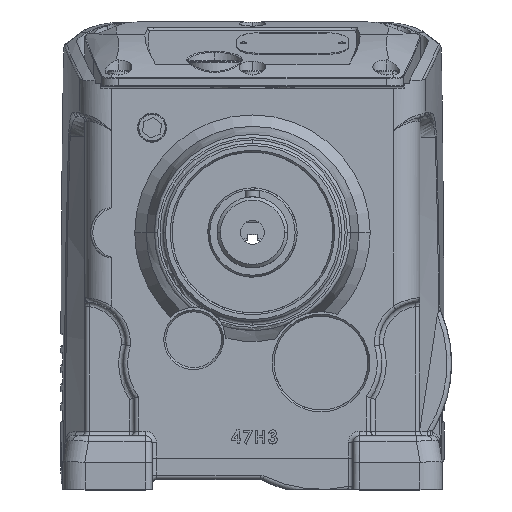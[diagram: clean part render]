
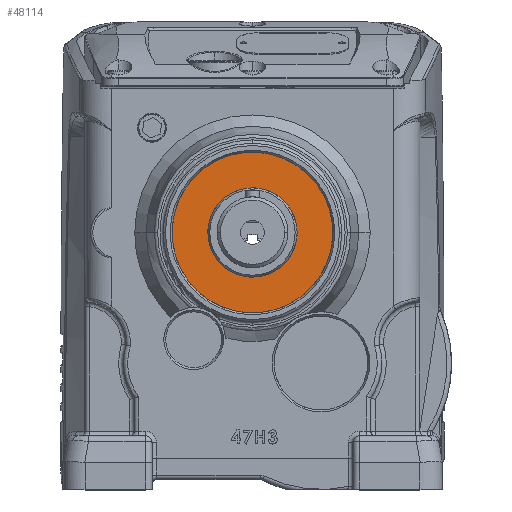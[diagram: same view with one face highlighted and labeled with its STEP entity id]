
A CAD part, top view. The second image highlights one B-rep face of the part: STEP entity #48114.
In plain terms, the highlighted planar face has unit normal (0, 0, 1).
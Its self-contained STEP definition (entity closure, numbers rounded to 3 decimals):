
#207 = AXIS2_PLACEMENT_3D ( 'NONE', #45281, #45282, #45283 ) ;
#355 = CIRCLE ( 'NONE', #358, 20. ) ;
#356 = CIRCLE ( 'NONE', #361, 36. ) ;
#358 = AXIS2_PLACEMENT_3D ( 'NONE', #7016, #7018, #7019 ) ;
#359 = CIRCLE ( 'NONE', #360, 20. ) ;
#360 = AXIS2_PLACEMENT_3D ( 'NONE', #7021, #7023, #7024 ) ;
#361 = AXIS2_PLACEMENT_3D ( 'NONE', #7026, #7028, #7030 ) ;
#364 = CIRCLE ( 'NONE', #367, 36. ) ;
#367 = AXIS2_PLACEMENT_3D ( 'NONE', #7040, #7042, #7044 ) ;
#2690 = CARTESIAN_POINT ( 'NONE',  ( 14.446, 143.475, 31. ) ) ;
#2691 = CARTESIAN_POINT ( 'NONE',  ( -14.446, 77.525, 31. ) ) ;
#2692 = CARTESIAN_POINT ( 'NONE',  ( -8.025, 92.181, 31. ) ) ;
#2693 = CARTESIAN_POINT ( 'NONE',  ( 8.025, 128.819, 31. ) ) ;
#7016 = CARTESIAN_POINT ( 'NONE',  ( 0., 110.5, 31. ) ) ;
#7018 = DIRECTION ( 'NONE',  ( 0., 0., 1. ) ) ;
#7019 = DIRECTION ( 'NONE',  ( -0.401, -0.916, 0. ) ) ;
#7021 = CARTESIAN_POINT ( 'NONE',  ( 0., 110.5, 31. ) ) ;
#7023 = DIRECTION ( 'NONE',  ( 0., 0., 1. ) ) ;
#7024 = DIRECTION ( 'NONE',  ( -0.401, -0.916, 0. ) ) ;
#7026 = CARTESIAN_POINT ( 'NONE',  ( 0., 110.5, 31. ) ) ;
#7028 = DIRECTION ( 'NONE',  ( 0., 0., 1. ) ) ;
#7030 = DIRECTION ( 'NONE',  ( -0.401, -0.916, 0. ) ) ;
#7040 = CARTESIAN_POINT ( 'NONE',  ( 0., 110.5, 31. ) ) ;
#7042 = DIRECTION ( 'NONE',  ( 0., 0., 1. ) ) ;
#7044 = DIRECTION ( 'NONE',  ( -0.401, -0.916, 0. ) ) ;
#40205 = EDGE_LOOP ( 'NONE', ( #50153, #50152 ) ) ;
#40207 = EDGE_LOOP ( 'NONE', ( #50150, #50151 ) ) ;
#42131 = FACE_BOUND ( 'NONE', #40205, .T. ) ;
#42132 = FACE_OUTER_BOUND ( 'NONE', #40207, .T. ) ;
#45280 = PLANE ( 'NONE',  #207 ) ;
#45281 = CARTESIAN_POINT ( 'NONE',  ( 32.975, 96.054, 31. ) ) ;
#45282 = DIRECTION ( 'NONE',  ( 0., 0., -1. ) ) ;
#45283 = DIRECTION ( 'NONE',  ( 0.401, 0.916, 0. ) ) ;
#48114 = ADVANCED_FACE ( 'NONE', ( #42131, #42132 ), #45280, .F. ) ;
#48303 = EDGE_CURVE ( 'NONE', #55873, #55874, #355, .T. ) ;
#48304 = EDGE_CURVE ( 'NONE', #55874, #55873, #359, .T. ) ;
#48305 = EDGE_CURVE ( 'NONE', #55871, #55872, #356, .T. ) ;
#48308 = EDGE_CURVE ( 'NONE', #55872, #55871, #364, .T. ) ;
#50150 = ORIENTED_EDGE ( 'NONE', *, *, #48308, .T. ) ;
#50151 = ORIENTED_EDGE ( 'NONE', *, *, #48305, .T. ) ;
#50152 = ORIENTED_EDGE ( 'NONE', *, *, #48304, .F. ) ;
#50153 = ORIENTED_EDGE ( 'NONE', *, *, #48303, .F. ) ;
#55871 = VERTEX_POINT ( 'NONE', #2690 ) ;
#55872 = VERTEX_POINT ( 'NONE', #2691 ) ;
#55873 = VERTEX_POINT ( 'NONE', #2692 ) ;
#55874 = VERTEX_POINT ( 'NONE', #2693 ) ;
